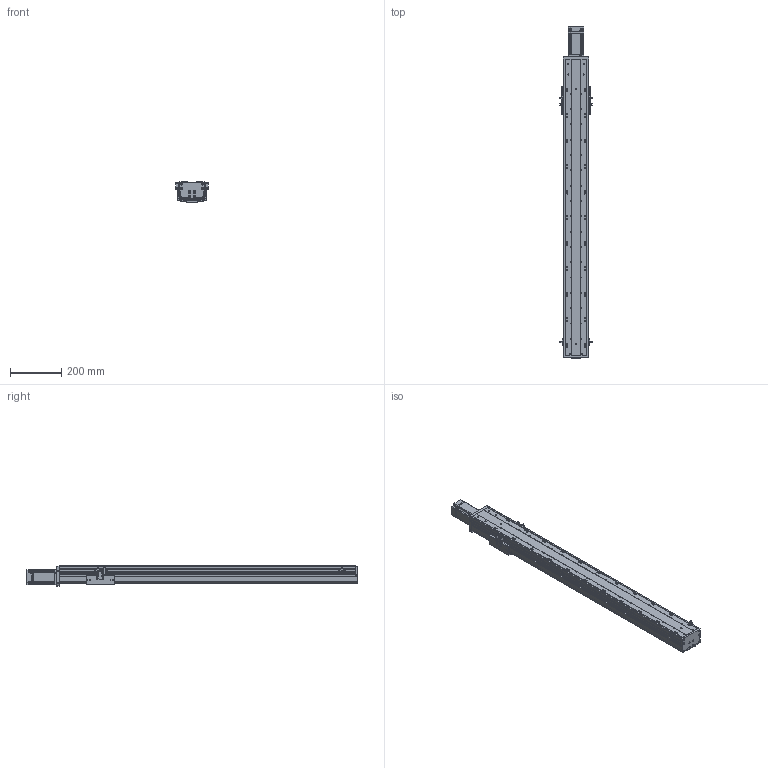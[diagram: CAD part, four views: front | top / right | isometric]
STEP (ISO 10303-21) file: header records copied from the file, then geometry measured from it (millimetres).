
FILE_DESCRIPTION (( 'STEP AP203' ), '1' );
FILE_NAME ('RY100FBS-L1610-300-MK(15双轨）.SLDASM_900.step', '2022-06-22T07:41:58', ( '' ), ( '' ), 'SwSTEP 2.0', 'SolidWorks 2016', '' );
FILE_SCHEMA (( 'CONFIG_CONTROL_DESIGN' ));
Length unit declared in the file: millimetre
Products named in the file (12): 滅袉蝶18-15; RY100FB-遵嫖萇覜茼え; 15; RY100FBS-后盖板(15双轨）; RY100FBS-300型材底座(15双轨）_900; RY100FBS-前盖板(15双轨）; 侂狟400W侜督萇儂; 滅袉蝶18-24; RY100FBS-铝滑块（16丝杆）; RY100FBS-300-上盖板(15双轨）_900; RY100FBS-L1610-300-MK(15双轨）.SLDASM_900; 覜茼ん672
Assembly tree (18 placements, depth 3):
  RY100FBS-L1610-300-MK(15双轨）.SLDASM_900
    RY100FBS-300型材底座(15双轨）_900
    滅袉蝶18-24  x2
    滅袉蝶18-15
    RY100FBS-铝滑块（16丝杆）
    RY100FBS-300-上盖板(15双轨）_900
    RY100FBS-前盖板(15双轨）
    RY100FBS-后盖板(15双轨）
    侂狟400W侜督萇儂
      15
    RY100FB-遵嫖萇覜茼え  x2
    覜茼ん672  x6
Bounding box: 127.4 x 1300.5 x 78.75 mm (x, y, z)
Volume: 2921003.8 mm3; surface area: 1046297.8 mm2
Topology: 17 solids, 17 shells, 1867 faces, 5353 edges, 3512 vertices
Faces by surface type: plane 885, cylinder 850, cone 114, bspline 18
Entity records: 50394 total; most frequent: CARTESIAN_POINT 10549, DIRECTION 8152, ORIENTED_EDGE 8050, EDGE_CURVE 4025, AXIS2_PLACEMENT_3D 2969, VERTEX_POINT 2660, LINE 2214, VECTOR 2214
